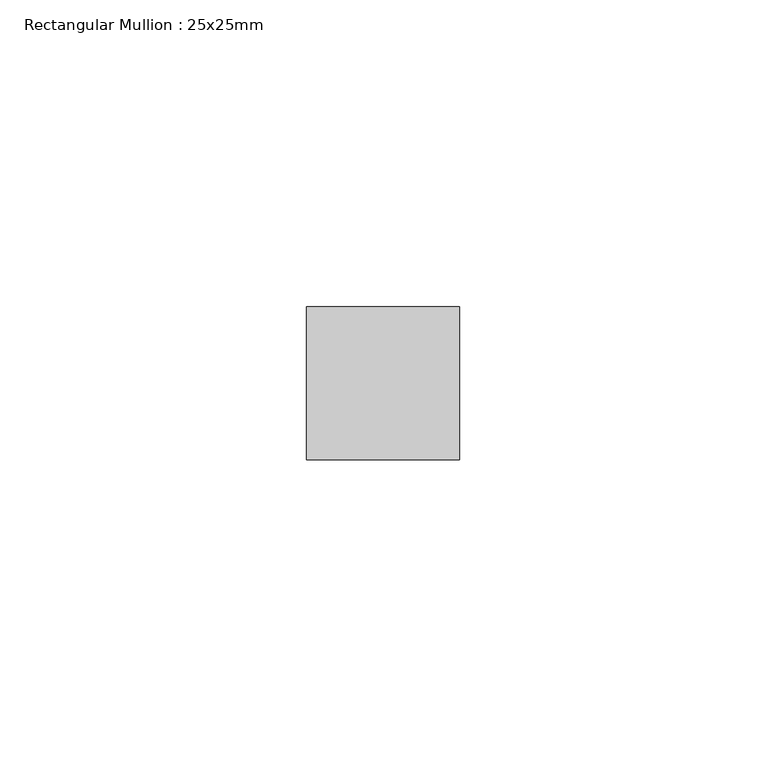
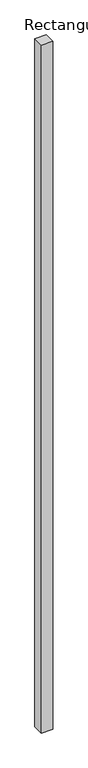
"""IFC4 building model written with IfcOpenShell, lengths in millimetres: member geometry, Rectangular Mullion : 25x25mm."""

from ifc_helpers import new_model, si_unit, frame, origin, place, context, project, spatial, polyline, outline, extrude, source, transform, mapped, element, save


def rectangular_mullion_25x25mm_a7b21d2d(model_context):
    return source(origin(), model_context, "Body", "SweptSolid", [
        extrude(outline(polyline([(0.0, 24.5), (0.0, -0.5), (-25.0, -0.5), (-25.0, 24.5), (0.0, 24.5)])), frame((0.0, 0.0, -1606.9444444), z_axis=(0.0, 0.0, 1.0), x_axis=(1.0, 0.0, 0.0)), (0.0, 0.0, 1.0), 1606.9444444),
    ])


if __name__ == "__main__":
    model = new_model("IFC4")
    model_context = context("Model", 3, world=origin())
    ifc_project = project(units=[si_unit("LENGTHUNIT", "METRE", prefix="MILLI")], contexts=[model_context])
    site = spatial("IfcSite", under=ifc_project)
    building = spatial("IfcBuilding", under=site)
    placement = place(None, origin())
    rectangular_mullion_25x25mm_shape = rectangular_mullion_25x25mm_a7b21d2d(model_context)
    element("IfcMember", 1, ObjectType="Rectangular Mullion : 25x25mm", at=placement, inside=building, context=model_context, shape_type="MappedRepresentation", body=[
        mapped(rectangular_mullion_25x25mm_shape, transform((0.0, 0.0, 0.0), x_axis=(1.0, 0.0, 0.0), y_axis=(0.0, 1.0, 0.0), z_axis=(0.0, 0.0, 1.0))),
    ])
    save(model, "model.ifc")
